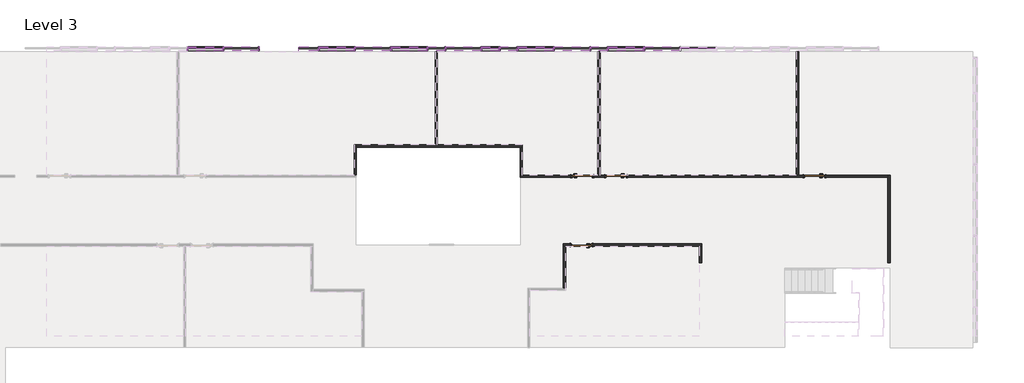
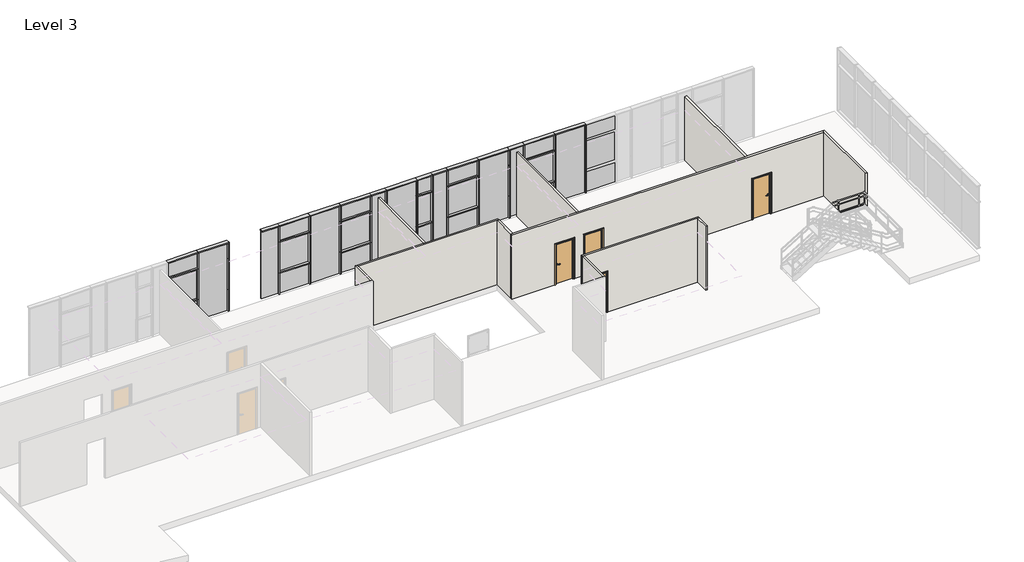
# One storey, part 3 of 7: 72 members, 30 plates, 11 walls, 4 doors.
"""IFC4 building model written with IfcOpenShell, lengths in millimetres."""

from ifc_helpers import new_model, si_unit, frame, origin, place, context, project, spatial, polyline, outline, extrude, faceted_brep, transform, mapped, element, save
from components import doors_intsgl_1_910x2110mm_004a08d5, doors_intsgl_1_910x2110mm_ba118736, rectangular_mullion_50x180mm_27940352, rectangular_mullion_50x180mm_f781141c, rectangular_mullion_50x180mm_fd91253e, rectangular_mullion_50x180mm_cfc9efda, rectangular_mullion_50x180mm_c30fec06, rectangular_mullion_50x180mm_55b63a96, rectangular_mullion_50x180mm_95299f7d, rectangular_mullion_50x180mm_7153291d, rectangular_mullion_50x180mm_44ee472d, rectangular_mullion_50x180mm_bfae1b57, rectangular_mullion_50x180mm_1c28dd9e, system_panel_black_panel_33968e5e, system_panel_black_panel_b553a8d2, system_panel_black_panel_68769a9a, system_panel_dark_grey_panel_97f951a3, system_panel_dark_grey_panel_4b19a003, system_panel_dark_grey_panel_97a7edae, system_panel_glazed_dd63f223, system_panel_glazed_4915e1a0, system_panel_white_panel_6a64f577, system_panel_white_panel_a9ca731a, system_panel_white_panel_dc489aa2, system_panel_white_panel_659cbcf8

model = new_model("IFC4")

# Units and contexts
model_context = context("Model", 3, world=origin())
ifc_project = project(units=[si_unit("LENGTHUNIT", "METRE", prefix="MILLI")], contexts=[model_context])

# Site, building, storey
site = spatial("IfcSite", under=ifc_project)
building = spatial("IfcBuilding", under=site)
storey = spatial("IfcBuildingStorey", under=building, Name="Level 3", Elevation=11000.0)

# Doors
placement = place(None, origin())
doors_intsgl_1_910x2110mm_shape = doors_intsgl_1_910x2110mm_004a08d5(model_context)
element("IfcDoor", 1, ObjectType="Doors_IntSgl_1 : 910x2110mm", at=placement, inside=storey, context=model_context, shape_type="MappedRepresentation", body=[
    mapped(doors_intsgl_1_910x2110mm_shape, transform((26878.2942367, 3837.3025486, 11000.0), x_axis=(1.0, 0.0, 0.0), y_axis=(0.0, 1.0, 0.0), z_axis=(0.0, 0.0, 1.0))),
])
element("IfcDoor", 2, ObjectType="Doors_IntSgl_1 : 910x2110mm", at=placement, inside=storey, context=model_context, shape_type="MappedRepresentation", body=[
    mapped(doors_intsgl_1_910x2110mm_shape, transform((26848.2942367, 987.4946591, 11000.0), x_axis=(-1.0, 0.0, 0.0), y_axis=(0.0, -1.0, 0.0), z_axis=(0.0, 0.0, 1.0))),
])
doors_intsgl_1_910x2110mm_2_shape = doors_intsgl_1_910x2110mm_ba118736(model_context)
element("IfcDoor", 3, ObjectType="Doors_IntSgl_1 : 910x2110mm", at=placement, inside=storey, context=model_context, shape_type="MappedRepresentation", body=[
    mapped(doors_intsgl_1_910x2110mm_2_shape, transform((28283.2942367, 3837.3025486, 11000.0), x_axis=(-1.0, 0.0, 0.0), y_axis=(0.0, -1.0, 0.0), z_axis=(0.0, 0.0, 1.0))),
])
element("IfcDoor", 4, ObjectType="Doors_IntSgl_1 : 910x2110mm", at=placement, inside=storey, context=model_context, shape_type="MappedRepresentation", body=[
    mapped(doors_intsgl_1_910x2110mm_2_shape, transform((36520.7942367, 3837.3025486, 11000.0), x_axis=(-1.0, 0.0, 0.0), y_axis=(0.0, -1.0, 0.0), z_axis=(0.0, 0.0, 1.0))),
])

# Members
rectangular_mullion_50x180mm_shape = rectangular_mullion_50x180mm_27940352(model_context)
element("IfcMember", 5, ObjectType="Rectangular Mullion : 50x180mm", at=placement, inside=storey, context=model_context, shape_type="MappedRepresentation", body=[
    mapped(rectangular_mullion_50x180mm_shape, transform((30943.2942367, 9132.4946591, 11000.0), x_axis=(1.0, 0.0, 0.0), y_axis=(0.0, -1.0, 0.0), z_axis=(0.0, 0.0, -1.0))),
])
element("IfcMember", 6, ObjectType="Rectangular Mullion : 50x180mm", at=placement, inside=storey, context=model_context, shape_type="MappedRepresentation", body=[
    mapped(rectangular_mullion_50x180mm_shape, transform((27943.2942367, 9132.4946591, 11000.0), x_axis=(1.0, 0.0, 0.0), y_axis=(0.0, -1.0, 0.0), z_axis=(0.0, 0.0, -1.0))),
])
element("IfcMember", 7, ObjectType="Rectangular Mullion : 50x180mm", at=placement, inside=storey, context=model_context, shape_type="MappedRepresentation", body=[
    mapped(rectangular_mullion_50x180mm_shape, transform((29443.2942367, 9132.4946591, 11000.0), x_axis=(1.0, 0.0, 0.0), y_axis=(0.0, -1.0, 0.0), z_axis=(0.0, 0.0, -1.0))),
])
element("IfcMember", 8, ObjectType="Rectangular Mullion : 50x180mm", at=placement, inside=storey, context=model_context, shape_type="MappedRepresentation", body=[
    mapped(rectangular_mullion_50x180mm_shape, transform((25693.2942367, 9132.4946591, 11000.0), x_axis=(1.0, 0.0, 0.0), y_axis=(0.0, -1.0, 0.0), z_axis=(0.0, 0.0, -1.0))),
])
element("IfcMember", 9, ObjectType="Rectangular Mullion : 50x180mm", at=placement, inside=storey, context=model_context, shape_type="MappedRepresentation", body=[
    mapped(rectangular_mullion_50x180mm_shape, transform((24193.2942367, 9132.4946591, 11000.0), x_axis=(1.0, 0.0, 0.0), y_axis=(0.0, -1.0, 0.0), z_axis=(0.0, 0.0, -1.0))),
])
element("IfcMember", 10, ObjectType="Rectangular Mullion : 50x180mm", at=placement, inside=storey, context=model_context, shape_type="MappedRepresentation", body=[
    mapped(rectangular_mullion_50x180mm_shape, transform((23443.2942367, 9132.4946591, 11000.0), x_axis=(1.0, 0.0, 0.0), y_axis=(0.0, -1.0, 0.0), z_axis=(0.0, 0.0, -1.0))),
])
element("IfcMember", 11, ObjectType="Rectangular Mullion : 50x180mm", at=placement, inside=storey, context=model_context, shape_type="MappedRepresentation", body=[
    mapped(rectangular_mullion_50x180mm_shape, transform((22693.2942367, 9132.4946591, 11000.0), x_axis=(1.0, 0.0, 0.0), y_axis=(0.0, -1.0, 0.0), z_axis=(0.0, 0.0, -1.0))),
])
element("IfcMember", 12, ObjectType="Rectangular Mullion : 50x180mm", at=placement, inside=storey, context=model_context, shape_type="MappedRepresentation", body=[
    mapped(rectangular_mullion_50x180mm_shape, transform((20443.2942367, 9132.4946591, 11000.0), x_axis=(1.0, 0.0, 0.0), y_axis=(0.0, -1.0, 0.0), z_axis=(0.0, 0.0, -1.0))),
])
element("IfcMember", 13, ObjectType="Rectangular Mullion : 50x180mm", at=placement, inside=storey, context=model_context, shape_type="MappedRepresentation", body=[
    mapped(rectangular_mullion_50x180mm_shape, transform((18943.2942367, 9132.4946591, 11000.0), x_axis=(1.0, 0.0, 0.0), y_axis=(0.0, -1.0, 0.0), z_axis=(0.0, 0.0, -1.0))),
])
element("IfcMember", 14, ObjectType="Rectangular Mullion : 50x180mm", at=placement, inside=storey, context=model_context, shape_type="MappedRepresentation", body=[
    mapped(rectangular_mullion_50x180mm_shape, transform((15943.2942367, 9132.4946591, 11000.0), x_axis=(1.0, 0.0, 0.0), y_axis=(0.0, -1.0, 0.0), z_axis=(0.0, 0.0, -1.0))),
])
element("IfcMember", 15, ObjectType="Rectangular Mullion : 50x180mm", at=placement, inside=storey, context=model_context, shape_type="MappedRepresentation", body=[
    mapped(rectangular_mullion_50x180mm_shape, transform((17443.2942367, 9132.4946591, 11000.0), x_axis=(1.0, 0.0, 0.0), y_axis=(0.0, -1.0, 0.0), z_axis=(0.0, 0.0, -1.0))),
])
element("IfcMember", 16, ObjectType="Rectangular Mullion : 50x180mm", at=placement, inside=storey, context=model_context, shape_type="MappedRepresentation", body=[
    mapped(rectangular_mullion_50x180mm_shape, transform((11980.7942367, 9132.4946591, 11000.0), x_axis=(1.0, 0.0, 0.0), y_axis=(0.0, -1.0, 0.0), z_axis=(0.0, 0.0, -1.0))),
])
element("IfcMember", 17, ObjectType="Rectangular Mullion : 50x180mm", at=placement, inside=storey, context=model_context, shape_type="MappedRepresentation", body=[
    mapped(rectangular_mullion_50x180mm_shape, transform((21193.2942367, 9132.4946591, 11000.0), x_axis=(1.0, 0.0, 0.0), y_axis=(0.0, -1.0, 0.0), z_axis=(0.0, 0.0, -1.0))),
])
rectangular_mullion_50x180mm_2_shape = rectangular_mullion_50x180mm_f781141c(model_context)
element("IfcMember", 18, ObjectType="Rectangular Mullion : 50x180mm", at=placement, inside=storey, context=model_context, shape_type="MappedRepresentation", body=[
    mapped(rectangular_mullion_50x180mm_2_shape, transform((27943.2942367, 9132.4946591, 12100.0), x_axis=(1.0, 0.0, 0.0), y_axis=(0.0, -1.0, 0.0), z_axis=(0.0, 0.0, -1.0))),
])
element("IfcMember", 19, ObjectType="Rectangular Mullion : 50x180mm", at=placement, inside=storey, context=model_context, shape_type="MappedRepresentation", body=[
    mapped(rectangular_mullion_50x180mm_2_shape, transform((29443.2942367, 9132.4946591, 12100.0), x_axis=(1.0, 0.0, 0.0), y_axis=(0.0, -1.0, 0.0), z_axis=(0.0, 0.0, -1.0))),
])
element("IfcMember", 20, ObjectType="Rectangular Mullion : 50x180mm", at=placement, inside=storey, context=model_context, shape_type="MappedRepresentation", body=[
    mapped(rectangular_mullion_50x180mm_2_shape, transform((30943.2942367, 9132.4946591, 12100.0), x_axis=(1.0, 0.0, 0.0), y_axis=(0.0, -1.0, 0.0), z_axis=(0.0, 0.0, -1.0))),
])
element("IfcMember", 21, ObjectType="Rectangular Mullion : 50x180mm", at=placement, inside=storey, context=model_context, shape_type="MappedRepresentation", body=[
    mapped(rectangular_mullion_50x180mm_2_shape, transform((15943.2942367, 9132.4946591, 12100.0), x_axis=(1.0, 0.0, 0.0), y_axis=(0.0, -1.0, 0.0), z_axis=(0.0, 0.0, -1.0))),
])
element("IfcMember", 22, ObjectType="Rectangular Mullion : 50x180mm", at=placement, inside=storey, context=model_context, shape_type="MappedRepresentation", body=[
    mapped(rectangular_mullion_50x180mm_2_shape, transform((17443.2942367, 9132.4946591, 12100.0), x_axis=(1.0, 0.0, 0.0), y_axis=(0.0, -1.0, 0.0), z_axis=(0.0, 0.0, -1.0))),
])
element("IfcMember", 23, ObjectType="Rectangular Mullion : 50x180mm", at=placement, inside=storey, context=model_context, shape_type="MappedRepresentation", body=[
    mapped(rectangular_mullion_50x180mm_2_shape, transform((18943.2942367, 9132.4946591, 12100.0), x_axis=(1.0, 0.0, 0.0), y_axis=(0.0, -1.0, 0.0), z_axis=(0.0, 0.0, -1.0))),
])
element("IfcMember", 24, ObjectType="Rectangular Mullion : 50x180mm", at=placement, inside=storey, context=model_context, shape_type="MappedRepresentation", body=[
    mapped(rectangular_mullion_50x180mm_2_shape, transform((20443.2942367, 9132.4946591, 12100.0), x_axis=(1.0, 0.0, 0.0), y_axis=(0.0, -1.0, 0.0), z_axis=(0.0, 0.0, -1.0))),
])
element("IfcMember", 25, ObjectType="Rectangular Mullion : 50x180mm", at=placement, inside=storey, context=model_context, shape_type="MappedRepresentation", body=[
    mapped(rectangular_mullion_50x180mm_2_shape, transform((22693.2942367, 9132.4946591, 12100.0), x_axis=(1.0, 0.0, 0.0), y_axis=(0.0, -1.0, 0.0), z_axis=(0.0, 0.0, -1.0))),
])
element("IfcMember", 26, ObjectType="Rectangular Mullion : 50x180mm", at=placement, inside=storey, context=model_context, shape_type="MappedRepresentation", body=[
    mapped(rectangular_mullion_50x180mm_2_shape, transform((23443.2942367, 9132.4946591, 12100.0), x_axis=(1.0, 0.0, 0.0), y_axis=(0.0, -1.0, 0.0), z_axis=(0.0, 0.0, -1.0))),
])
element("IfcMember", 27, ObjectType="Rectangular Mullion : 50x180mm", at=placement, inside=storey, context=model_context, shape_type="MappedRepresentation", body=[
    mapped(rectangular_mullion_50x180mm_2_shape, transform((24193.2942367, 9132.4946591, 12100.0), x_axis=(1.0, 0.0, 0.0), y_axis=(0.0, -1.0, 0.0), z_axis=(0.0, 0.0, -1.0))),
])
element("IfcMember", 28, ObjectType="Rectangular Mullion : 50x180mm", at=placement, inside=storey, context=model_context, shape_type="MappedRepresentation", body=[
    mapped(rectangular_mullion_50x180mm_2_shape, transform((25693.2942367, 9132.4946591, 12100.0), x_axis=(1.0, 0.0, 0.0), y_axis=(0.0, -1.0, 0.0), z_axis=(0.0, 0.0, -1.0))),
])
element("IfcMember", 29, ObjectType="Rectangular Mullion : 50x180mm", at=placement, inside=storey, context=model_context, shape_type="MappedRepresentation", body=[
    mapped(rectangular_mullion_50x180mm_2_shape, transform((11980.7942367, 9132.4946591, 12100.0), x_axis=(1.0, 0.0, 0.0), y_axis=(0.0, -1.0, 0.0), z_axis=(0.0, 0.0, -1.0))),
])
element("IfcMember", 30, ObjectType="Rectangular Mullion : 50x180mm", at=placement, inside=storey, context=model_context, shape_type="MappedRepresentation", body=[
    mapped(rectangular_mullion_50x180mm_2_shape, transform((21193.2942367, 9132.4946591, 12100.0), x_axis=(1.0, 0.0, 0.0), y_axis=(0.0, -1.0, 0.0), z_axis=(0.0, 0.0, -1.0))),
])
rectangular_mullion_50x180mm_3_shape = rectangular_mullion_50x180mm_fd91253e(model_context)
element("IfcMember", 31, ObjectType="Rectangular Mullion : 50x180mm", at=placement, inside=storey, context=model_context, shape_type="MappedRepresentation", body=[
    mapped(rectangular_mullion_50x180mm_3_shape, transform((29418.2942367, 9132.4946591, 12100.0), x_axis=(0.0, 0.0, 1.0), y_axis=(0.0, -1.0, 0.0), z_axis=(1.0, 0.0, 0.0))),
])
element("IfcMember", 32, ObjectType="Rectangular Mullion : 50x180mm", at=placement, inside=storey, context=model_context, shape_type="MappedRepresentation", body=[
    mapped(rectangular_mullion_50x180mm_3_shape, transform((29418.2942367, 9132.4946591, 13700.0), x_axis=(0.0, 0.0, 1.0), y_axis=(0.0, -1.0, 0.0), z_axis=(1.0, 0.0, 0.0))),
])
element("IfcMember", 33, ObjectType="Rectangular Mullion : 50x180mm", at=placement, inside=storey, context=model_context, shape_type="MappedRepresentation", body=[
    mapped(rectangular_mullion_50x180mm_3_shape, transform((25668.2942367, 9132.4946591, 12100.0), x_axis=(0.0, 0.0, 1.0), y_axis=(0.0, -1.0, 0.0), z_axis=(1.0, 0.0, 0.0))),
])
element("IfcMember", 34, ObjectType="Rectangular Mullion : 50x180mm", at=placement, inside=storey, context=model_context, shape_type="MappedRepresentation", body=[
    mapped(rectangular_mullion_50x180mm_3_shape, transform((25668.2942367, 9132.4946591, 13700.0), x_axis=(0.0, 0.0, 1.0), y_axis=(0.0, -1.0, 0.0), z_axis=(1.0, 0.0, 0.0))),
])
element("IfcMember", 35, ObjectType="Rectangular Mullion : 50x180mm", at=placement, inside=storey, context=model_context, shape_type="MappedRepresentation", body=[
    mapped(rectangular_mullion_50x180mm_3_shape, transform((17418.2942367, 9132.4946591, 12100.0), x_axis=(0.0, 0.0, 1.0), y_axis=(0.0, -1.0, 0.0), z_axis=(1.0, 0.0, 0.0))),
])
element("IfcMember", 36, ObjectType="Rectangular Mullion : 50x180mm", at=placement, inside=storey, context=model_context, shape_type="MappedRepresentation", body=[
    mapped(rectangular_mullion_50x180mm_3_shape, transform((20418.2942367, 9132.4946591, 12100.0), x_axis=(0.0, 0.0, 1.0), y_axis=(0.0, -1.0, 0.0), z_axis=(1.0, 0.0, 0.0))),
])
element("IfcMember", 37, ObjectType="Rectangular Mullion : 50x180mm", at=placement, inside=storey, context=model_context, shape_type="MappedRepresentation", body=[
    mapped(rectangular_mullion_50x180mm_3_shape, transform((17418.2942367, 9132.4946591, 13700.0), x_axis=(0.0, 0.0, 1.0), y_axis=(0.0, -1.0, 0.0), z_axis=(1.0, 0.0, 0.0))),
])
element("IfcMember", 38, ObjectType="Rectangular Mullion : 50x180mm", at=placement, inside=storey, context=model_context, shape_type="MappedRepresentation", body=[
    mapped(rectangular_mullion_50x180mm_3_shape, transform((20418.2942367, 9132.4946591, 13700.0), x_axis=(0.0, 0.0, 1.0), y_axis=(0.0, -1.0, 0.0), z_axis=(1.0, 0.0, 0.0))),
])
element("IfcMember", 39, ObjectType="Rectangular Mullion : 50x180mm", at=placement, inside=storey, context=model_context, shape_type="MappedRepresentation", body=[
    mapped(rectangular_mullion_50x180mm_3_shape, transform((11955.7942367, 9132.4946591, 12100.0), x_axis=(0.0, 0.0, 1.0), y_axis=(0.0, -1.0, 0.0), z_axis=(1.0, 0.0, 0.0))),
])
element("IfcMember", 40, ObjectType="Rectangular Mullion : 50x180mm", at=placement, inside=storey, context=model_context, shape_type="MappedRepresentation", body=[
    mapped(rectangular_mullion_50x180mm_3_shape, transform((11955.7942367, 9132.4946591, 13700.0), x_axis=(0.0, 0.0, 1.0), y_axis=(0.0, -1.0, 0.0), z_axis=(1.0, 0.0, 0.0))),
])
rectangular_mullion_50x180mm_4_shape = rectangular_mullion_50x180mm_cfc9efda(model_context)
element("IfcMember", 41, ObjectType="Rectangular Mullion : 50x180mm", at=placement, inside=storey, context=model_context, shape_type="MappedRepresentation", body=[
    mapped(rectangular_mullion_50x180mm_4_shape, transform((23418.2942367, 9132.4946591, 13700.0), x_axis=(0.0, 0.0, 1.0), y_axis=(0.0, -1.0, 0.0), z_axis=(1.0, 0.0, 0.0))),
])
element("IfcMember", 42, ObjectType="Rectangular Mullion : 50x180mm", at=placement, inside=storey, context=model_context, shape_type="MappedRepresentation", body=[
    mapped(rectangular_mullion_50x180mm_4_shape, transform((23418.2942367, 9132.4946591, 12100.0), x_axis=(0.0, 0.0, 1.0), y_axis=(0.0, -1.0, 0.0), z_axis=(1.0, 0.0, 0.0))),
])
rectangular_mullion_50x180mm_5_shape = rectangular_mullion_50x180mm_c30fec06(model_context)
element("IfcMember", 43, ObjectType="Rectangular Mullion : 50x180mm", at=placement, inside=storey, context=model_context, shape_type="MappedRepresentation", body=[
    mapped(rectangular_mullion_50x180mm_5_shape, transform((29443.2942367, 9132.4946591, 14550.0), x_axis=(0.0, 0.0, 1.0), y_axis=(0.0, -1.0, 0.0), z_axis=(1.0, 0.0, 0.0))),
])
element("IfcMember", 44, ObjectType="Rectangular Mullion : 50x180mm", at=placement, inside=storey, context=model_context, shape_type="MappedRepresentation", body=[
    mapped(rectangular_mullion_50x180mm_5_shape, transform((30943.2942367, 9132.4946591, 14550.0), x_axis=(0.0, 0.0, 1.0), y_axis=(0.0, -1.0, 0.0), z_axis=(1.0, 0.0, 0.0))),
])
element("IfcMember", 45, ObjectType="Rectangular Mullion : 50x180mm", at=placement, inside=storey, context=model_context, shape_type="MappedRepresentation", body=[
    mapped(rectangular_mullion_50x180mm_5_shape, transform((17443.2942367, 9132.4946591, 14550.0), x_axis=(0.0, 0.0, 1.0), y_axis=(0.0, -1.0, 0.0), z_axis=(1.0, 0.0, 0.0))),
])
element("IfcMember", 46, ObjectType="Rectangular Mullion : 50x180mm", at=placement, inside=storey, context=model_context, shape_type="MappedRepresentation", body=[
    mapped(rectangular_mullion_50x180mm_5_shape, transform((18943.2942367, 9132.4946591, 14550.0), x_axis=(0.0, 0.0, 1.0), y_axis=(0.0, -1.0, 0.0), z_axis=(1.0, 0.0, 0.0))),
])
element("IfcMember", 47, ObjectType="Rectangular Mullion : 50x180mm", at=placement, inside=storey, context=model_context, shape_type="MappedRepresentation", body=[
    mapped(rectangular_mullion_50x180mm_5_shape, transform((20443.2942367, 9132.4946591, 14550.0), x_axis=(0.0, 0.0, 1.0), y_axis=(0.0, -1.0, 0.0), z_axis=(1.0, 0.0, 0.0))),
])
element("IfcMember", 48, ObjectType="Rectangular Mullion : 50x180mm", at=placement, inside=storey, context=model_context, shape_type="MappedRepresentation", body=[
    mapped(rectangular_mullion_50x180mm_5_shape, transform((22693.2942367, 9132.4946591, 14550.0), x_axis=(0.0, 0.0, 1.0), y_axis=(0.0, -1.0, 0.0), z_axis=(1.0, 0.0, 0.0))),
])
element("IfcMember", 49, ObjectType="Rectangular Mullion : 50x180mm", at=placement, inside=storey, context=model_context, shape_type="MappedRepresentation", body=[
    mapped(rectangular_mullion_50x180mm_5_shape, transform((25693.2942367, 9132.4946591, 14550.0), x_axis=(0.0, 0.0, 1.0), y_axis=(0.0, -1.0, 0.0), z_axis=(1.0, 0.0, 0.0))),
])
element("IfcMember", 50, ObjectType="Rectangular Mullion : 50x180mm", at=placement, inside=storey, context=model_context, shape_type="MappedRepresentation", body=[
    mapped(rectangular_mullion_50x180mm_5_shape, transform((11980.7942367, 9132.4946591, 14550.0), x_axis=(0.0, 0.0, 1.0), y_axis=(0.0, -1.0, 0.0), z_axis=(1.0, 0.0, 0.0))),
])
rectangular_mullion_50x180mm_6_shape = rectangular_mullion_50x180mm_55b63a96(model_context)
element("IfcMember", 51, ObjectType="Rectangular Mullion : 50x180mm", at=placement, inside=storey, context=model_context, shape_type="MappedRepresentation", body=[
    mapped(rectangular_mullion_50x180mm_6_shape, transform((27943.2942367, 9132.4946591, 14550.0), x_axis=(0.0, 0.0, 1.0), y_axis=(0.0, -1.0, 0.0), z_axis=(1.0, 0.0, 0.0))),
])
element("IfcMember", 52, ObjectType="Rectangular Mullion : 50x180mm", at=placement, inside=storey, context=model_context, shape_type="MappedRepresentation", body=[
    mapped(rectangular_mullion_50x180mm_5_shape, transform((27193.2942367, 9132.4946591, 14550.0), x_axis=(0.0, 0.0, 1.0), y_axis=(0.0, -1.0, 0.0), z_axis=(1.0, 0.0, 0.0))),
])
element("IfcMember", 53, ObjectType="Rectangular Mullion : 50x180mm", at=placement, inside=storey, context=model_context, shape_type="MappedRepresentation", body=[
    mapped(rectangular_mullion_50x180mm_6_shape, transform((21193.2942367, 9132.4946591, 14550.0), x_axis=(0.0, 0.0, 1.0), y_axis=(0.0, -1.0, 0.0), z_axis=(1.0, 0.0, 0.0))),
])
element("IfcMember", 54, ObjectType="Rectangular Mullion : 50x180mm", at=placement, inside=storey, context=model_context, shape_type="MappedRepresentation", body=[
    mapped(rectangular_mullion_50x180mm_6_shape, transform((23443.2942367, 9132.4946591, 14550.0), x_axis=(0.0, 0.0, 1.0), y_axis=(0.0, -1.0, 0.0), z_axis=(1.0, 0.0, 0.0))),
])
element("IfcMember", 55, ObjectType="Rectangular Mullion : 50x180mm", at=placement, inside=storey, context=model_context, shape_type="MappedRepresentation", body=[
    mapped(rectangular_mullion_50x180mm_6_shape, transform((24193.2942367, 9132.4946591, 14550.0), x_axis=(0.0, 0.0, 1.0), y_axis=(0.0, -1.0, 0.0), z_axis=(1.0, 0.0, 0.0))),
])
element("IfcMember", 56, ObjectType="Rectangular Mullion : 50x180mm", at=placement, inside=storey, context=model_context, shape_type="MappedRepresentation", body=[
    mapped(rectangular_mullion_50x180mm_5_shape, transform((13480.7942367, 9132.4946591, 14550.0), x_axis=(0.0, 0.0, 1.0), y_axis=(0.0, -1.0, 0.0), z_axis=(1.0, 0.0, 0.0))),
])
rectangular_mullion_50x180mm_7_shape = rectangular_mullion_50x180mm_95299f7d(model_context)
element("IfcMember", 57, ObjectType="Rectangular Mullion : 50x180mm", at=placement, inside=storey, context=model_context, shape_type="MappedRepresentation", body=[
    mapped(rectangular_mullion_50x180mm_7_shape, transform((13480.7942367, 9132.4946591, 12100.0), x_axis=(1.0, 0.0, 0.0), y_axis=(0.0, -1.0, 0.0), z_axis=(0.0, 0.0, -1.0))),
])
rectangular_mullion_50x180mm_8_shape = rectangular_mullion_50x180mm_7153291d(model_context)
element("IfcMember", 58, ObjectType="Rectangular Mullion : 50x180mm", at=placement, inside=storey, context=model_context, shape_type="MappedRepresentation", body=[
    mapped(rectangular_mullion_50x180mm_8_shape, transform((13480.7942367, 9132.4946591, 11000.0), x_axis=(1.0, 0.0, 0.0), y_axis=(0.0, -1.0, 0.0), z_axis=(0.0, 0.0, -1.0))),
])
element("IfcMember", 59, ObjectType="Rectangular Mullion : 50x180mm", at=placement, inside=storey, context=model_context, shape_type="MappedRepresentation", body=[
    mapped(rectangular_mullion_50x180mm_8_shape, transform((27193.2942367, 9132.4946591, 12100.0), x_axis=(-1.0, 0.0, 0.0), y_axis=(0.0, -1.0, 0.0), z_axis=(0.0, 0.0, 1.0))),
])
element("IfcMember", 60, ObjectType="Rectangular Mullion : 50x180mm", at=placement, inside=storey, context=model_context, shape_type="MappedRepresentation", body=[
    mapped(rectangular_mullion_50x180mm_7_shape, transform((27193.2942367, 9132.4946591, 13700.0), x_axis=(-1.0, 0.0, 0.0), y_axis=(0.0, -1.0, 0.0), z_axis=(0.0, 0.0, 1.0))),
])
rectangular_mullion_50x180mm_9_shape = rectangular_mullion_50x180mm_44ee472d(model_context)
element("IfcMember", 61, ObjectType="Rectangular Mullion : 50x180mm", at=placement, inside=storey, context=model_context, shape_type="MappedRepresentation", body=[
    mapped(rectangular_mullion_50x180mm_9_shape, transform((15943.2942367, 9132.4946591, 14550.0), x_axis=(0.0, 0.0, 1.0), y_axis=(0.0, -1.0, 0.0), z_axis=(1.0, 0.0, 0.0))),
])
rectangular_mullion_50x180mm_10_shape = rectangular_mullion_50x180mm_bfae1b57(model_context)
element("IfcMember", 62, ObjectType="Rectangular Mullion : 50x180mm", at=placement, inside=storey, context=model_context, shape_type="MappedRepresentation", body=[
    mapped(rectangular_mullion_50x180mm_10_shape, transform((30943.2942367, 9132.4946591, 13700.0), x_axis=(1.0, 0.0, 0.0), y_axis=(0.0, -1.0, 0.0), z_axis=(0.0, 0.0, -1.0))),
])
element("IfcMember", 63, ObjectType="Rectangular Mullion : 50x180mm", at=placement, inside=storey, context=model_context, shape_type="MappedRepresentation", body=[
    mapped(rectangular_mullion_50x180mm_10_shape, transform((27943.2942367, 9132.4946591, 13700.0), x_axis=(1.0, 0.0, 0.0), y_axis=(0.0, -1.0, 0.0), z_axis=(0.0, 0.0, -1.0))),
])
element("IfcMember", 64, ObjectType="Rectangular Mullion : 50x180mm", at=placement, inside=storey, context=model_context, shape_type="MappedRepresentation", body=[
    mapped(rectangular_mullion_50x180mm_10_shape, transform((29443.2942367, 9132.4946591, 13700.0), x_axis=(1.0, 0.0, 0.0), y_axis=(0.0, -1.0, 0.0), z_axis=(0.0, 0.0, -1.0))),
])
element("IfcMember", 65, ObjectType="Rectangular Mullion : 50x180mm", at=placement, inside=storey, context=model_context, shape_type="MappedRepresentation", body=[
    mapped(rectangular_mullion_50x180mm_10_shape, transform((22693.2942367, 9132.4946591, 13700.0), x_axis=(1.0, 0.0, 0.0), y_axis=(0.0, -1.0, 0.0), z_axis=(0.0, 0.0, -1.0))),
])
element("IfcMember", 66, ObjectType="Rectangular Mullion : 50x180mm", at=placement, inside=storey, context=model_context, shape_type="MappedRepresentation", body=[
    mapped(rectangular_mullion_50x180mm_10_shape, transform((23443.2942367, 9132.4946591, 13700.0), x_axis=(1.0, 0.0, 0.0), y_axis=(0.0, -1.0, 0.0), z_axis=(0.0, 0.0, -1.0))),
])
element("IfcMember", 67, ObjectType="Rectangular Mullion : 50x180mm", at=placement, inside=storey, context=model_context, shape_type="MappedRepresentation", body=[
    mapped(rectangular_mullion_50x180mm_10_shape, transform((24193.2942367, 9132.4946591, 13700.0), x_axis=(1.0, 0.0, 0.0), y_axis=(0.0, -1.0, 0.0), z_axis=(0.0, 0.0, -1.0))),
])
element("IfcMember", 68, ObjectType="Rectangular Mullion : 50x180mm", at=placement, inside=storey, context=model_context, shape_type="MappedRepresentation", body=[
    mapped(rectangular_mullion_50x180mm_10_shape, transform((25693.2942367, 9132.4946591, 13700.0), x_axis=(1.0, 0.0, 0.0), y_axis=(0.0, -1.0, 0.0), z_axis=(0.0, 0.0, -1.0))),
])
element("IfcMember", 69, ObjectType="Rectangular Mullion : 50x180mm", at=placement, inside=storey, context=model_context, shape_type="MappedRepresentation", body=[
    mapped(rectangular_mullion_50x180mm_10_shape, transform((20443.2942367, 9132.4946591, 13700.0), x_axis=(1.0, 0.0, 0.0), y_axis=(0.0, -1.0, 0.0), z_axis=(0.0, 0.0, -1.0))),
])
element("IfcMember", 70, ObjectType="Rectangular Mullion : 50x180mm", at=placement, inside=storey, context=model_context, shape_type="MappedRepresentation", body=[
    mapped(rectangular_mullion_50x180mm_10_shape, transform((18943.2942367, 9132.4946591, 13700.0), x_axis=(1.0, 0.0, 0.0), y_axis=(0.0, -1.0, 0.0), z_axis=(0.0, 0.0, -1.0))),
])
element("IfcMember", 71, ObjectType="Rectangular Mullion : 50x180mm", at=placement, inside=storey, context=model_context, shape_type="MappedRepresentation", body=[
    mapped(rectangular_mullion_50x180mm_10_shape, transform((15943.2942367, 9132.4946591, 13700.0), x_axis=(1.0, 0.0, 0.0), y_axis=(0.0, -1.0, 0.0), z_axis=(0.0, 0.0, -1.0))),
])
element("IfcMember", 72, ObjectType="Rectangular Mullion : 50x180mm", at=placement, inside=storey, context=model_context, shape_type="MappedRepresentation", body=[
    mapped(rectangular_mullion_50x180mm_10_shape, transform((17443.2942367, 9132.4946591, 13700.0), x_axis=(1.0, 0.0, 0.0), y_axis=(0.0, -1.0, 0.0), z_axis=(0.0, 0.0, -1.0))),
])
element("IfcMember", 73, ObjectType="Rectangular Mullion : 50x180mm", at=placement, inside=storey, context=model_context, shape_type="MappedRepresentation", body=[
    mapped(rectangular_mullion_50x180mm_10_shape, transform((11980.7942367, 9132.4946591, 13700.0), x_axis=(1.0, 0.0, 0.0), y_axis=(0.0, -1.0, 0.0), z_axis=(0.0, 0.0, -1.0))),
])
element("IfcMember", 74, ObjectType="Rectangular Mullion : 50x180mm", at=placement, inside=storey, context=model_context, shape_type="MappedRepresentation", body=[
    mapped(rectangular_mullion_50x180mm_10_shape, transform((21193.2942367, 9132.4946591, 13700.0), x_axis=(1.0, 0.0, 0.0), y_axis=(0.0, -1.0, 0.0), z_axis=(0.0, 0.0, -1.0))),
])
rectangular_mullion_50x180mm_11_shape = rectangular_mullion_50x180mm_1c28dd9e(model_context)
element("IfcMember", 75, ObjectType="Rectangular Mullion : 50x180mm", at=placement, inside=storey, context=model_context, shape_type="MappedRepresentation", body=[
    mapped(rectangular_mullion_50x180mm_11_shape, transform((13480.7942367, 9132.4946591, 13700.0), x_axis=(1.0, 0.0, 0.0), y_axis=(0.0, -1.0, 0.0), z_axis=(0.0, 0.0, -1.0))),
])
element("IfcMember", 76, ObjectType="Rectangular Mullion : 50x180mm", at=placement, inside=storey, context=model_context, shape_type="MappedRepresentation", body=[
    mapped(rectangular_mullion_50x180mm_11_shape, transform((27193.2942367, 9132.4946591, 14500.0), x_axis=(-1.0, 0.0, 0.0), y_axis=(0.0, -1.0, 0.0), z_axis=(0.0, 0.0, 1.0))),
])

# Plates
system_panel_black_panel_shape = system_panel_black_panel_33968e5e(model_context)
element("IfcPlate", 77, ObjectType="System Panel : Black-Panel", at=placement, inside=storey, context=model_context, shape_type="MappedRepresentation", body=[
    mapped(system_panel_black_panel_shape, transform((27580.7942367, 9132.4946591, 11000.0), x_axis=(1.0, 0.0, 0.0), y_axis=(0.0, 1.0, 0.0), z_axis=(0.0, 0.0, 1.0))),
])
system_panel_black_panel_2_shape = system_panel_black_panel_b553a8d2(model_context)
element("IfcPlate", 78, ObjectType="System Panel : Black-Panel", at=placement, inside=storey, context=model_context, shape_type="MappedRepresentation", body=[
    mapped(system_panel_black_panel_2_shape, transform((23818.2942367, 9132.4946591, 11000.0), x_axis=(1.0, 0.0, 0.0), y_axis=(0.0, 1.0, 0.0), z_axis=(0.0, 0.0, 1.0))),
])
element("IfcPlate", 79, ObjectType="System Panel : Black-Panel", at=placement, inside=storey, context=model_context, shape_type="MappedRepresentation", body=[
    mapped(system_panel_black_panel_2_shape, transform((20818.2942367, 9132.4946591, 11000.0), x_axis=(1.0, 0.0, 0.0), y_axis=(0.0, 1.0, 0.0), z_axis=(0.0, 0.0, 1.0))),
])
system_panel_black_panel_3_shape = system_panel_black_panel_68769a9a(model_context)
element("IfcPlate", 80, ObjectType="System Panel : Black-Panel", at=placement, inside=storey, context=model_context, shape_type="MappedRepresentation", body=[
    mapped(system_panel_black_panel_3_shape, transform((15512.0442367, 9132.4946591, 11000.0), x_axis=(1.0, 0.0, 0.0), y_axis=(0.0, 1.0, 0.0), z_axis=(0.0, 0.0, 1.0))),
])
system_panel_dark_grey_panel_shape = system_panel_dark_grey_panel_97f951a3(model_context)
element("IfcPlate", 81, ObjectType="System Panel : Dark Grey-Panel", at=placement, inside=storey, context=model_context, shape_type="MappedRepresentation", body=[
    mapped(system_panel_dark_grey_panel_shape, transform((12718.2942367, 9132.4946591, 11000.0), x_axis=(1.0, 0.0, 0.0), y_axis=(0.0, 1.0, 0.0), z_axis=(0.0, 0.0, 1.0))),
])
system_panel_dark_grey_panel_2_shape = system_panel_dark_grey_panel_4b19a003(model_context)
element("IfcPlate", 82, ObjectType="System Panel : Dark Grey-Panel", at=placement, inside=storey, context=model_context, shape_type="MappedRepresentation", body=[
    mapped(system_panel_dark_grey_panel_2_shape, transform((30193.2942367, 9132.4946591, 11000.0), x_axis=(1.0, 0.0, 0.0), y_axis=(0.0, 1.0, 0.0), z_axis=(0.0, 0.0, 1.0))),
])
element("IfcPlate", 83, ObjectType="System Panel : Dark Grey-Panel", at=placement, inside=storey, context=model_context, shape_type="MappedRepresentation", body=[
    mapped(system_panel_dark_grey_panel_2_shape, transform((21943.2942367, 9132.4946591, 11000.0), x_axis=(1.0, 0.0, 0.0), y_axis=(0.0, 1.0, 0.0), z_axis=(0.0, 0.0, 1.0))),
])
element("IfcPlate", 84, ObjectType="System Panel : Dark Grey-Panel", at=placement, inside=storey, context=model_context, shape_type="MappedRepresentation", body=[
    mapped(system_panel_dark_grey_panel_2_shape, transform((18193.2942367, 9132.4946591, 11000.0), x_axis=(1.0, 0.0, 0.0), y_axis=(0.0, 1.0, 0.0), z_axis=(0.0, 0.0, 1.0))),
])
system_panel_dark_grey_panel_3_shape = system_panel_dark_grey_panel_97a7edae(model_context)
element("IfcPlate", 85, ObjectType="System Panel : Dark Grey-Panel", at=placement, inside=storey, context=model_context, shape_type="MappedRepresentation", body=[
    mapped(system_panel_dark_grey_panel_3_shape, transform((26455.7942367, 9132.4946591, 11000.0), x_axis=(1.0, 0.0, 0.0), y_axis=(0.0, 1.0, 0.0), z_axis=(0.0, 0.0, 1.0))),
])
system_panel_glazed_shape = system_panel_glazed_dd63f223(model_context)
element("IfcPlate", 86, ObjectType="System Panel : Glazed", at=placement, inside=storey, context=model_context, shape_type="MappedRepresentation", body=[
    mapped(system_panel_glazed_shape, transform((23068.2942367, 9132.4946591, 12125.0), x_axis=(1.0, 0.0, 0.0), y_axis=(0.0, 1.0, 0.0), z_axis=(0.0, 0.0, 1.0))),
])
system_panel_glazed_2_shape = system_panel_glazed_4915e1a0(model_context)
element("IfcPlate", 87, ObjectType="System Panel : Glazed", at=placement, inside=storey, context=model_context, shape_type="MappedRepresentation", body=[
    mapped(system_panel_glazed_2_shape, transform((31693.2942367, 9132.4946591, 12125.0), x_axis=(1.0, 0.0, 0.0), y_axis=(0.0, 1.0, 0.0), z_axis=(0.0, 0.0, 1.0))),
])
element("IfcPlate", 88, ObjectType="System Panel : Glazed", at=placement, inside=storey, context=model_context, shape_type="MappedRepresentation", body=[
    mapped(system_panel_glazed_2_shape, transform((28693.2942367, 9132.4946591, 12125.0), x_axis=(1.0, 0.0, 0.0), y_axis=(0.0, 1.0, 0.0), z_axis=(0.0, 0.0, 1.0))),
])
element("IfcPlate", 89, ObjectType="System Panel : Glazed", at=placement, inside=storey, context=model_context, shape_type="MappedRepresentation", body=[
    mapped(system_panel_glazed_2_shape, transform((24943.2942367, 9132.4946591, 12125.0), x_axis=(1.0, 0.0, 0.0), y_axis=(0.0, 1.0, 0.0), z_axis=(0.0, 0.0, 1.0))),
])
element("IfcPlate", 90, ObjectType="System Panel : Glazed", at=placement, inside=storey, context=model_context, shape_type="MappedRepresentation", body=[
    mapped(system_panel_glazed_2_shape, transform((19693.2942367, 9132.4946591, 12125.0), x_axis=(1.0, 0.0, 0.0), y_axis=(0.0, 1.0, 0.0), z_axis=(0.0, 0.0, 1.0))),
])
element("IfcPlate", 91, ObjectType="System Panel : Glazed", at=placement, inside=storey, context=model_context, shape_type="MappedRepresentation", body=[
    mapped(system_panel_glazed_2_shape, transform((16693.2942367, 9132.4946591, 12125.0), x_axis=(1.0, 0.0, 0.0), y_axis=(0.0, 1.0, 0.0), z_axis=(0.0, 0.0, 1.0))),
])
element("IfcPlate", 92, ObjectType="System Panel : Glazed", at=placement, inside=storey, context=model_context, shape_type="MappedRepresentation", body=[
    mapped(system_panel_glazed_2_shape, transform((11230.7942367, 9132.4946591, 12125.0), x_axis=(1.0, 0.0, 0.0), y_axis=(0.0, 1.0, 0.0), z_axis=(0.0, 0.0, 1.0))),
])
system_panel_white_panel_shape = system_panel_white_panel_6a64f577(model_context)
element("IfcPlate", 93, ObjectType="System Panel : White-Panel", at=placement, inside=storey, context=model_context, shape_type="MappedRepresentation", body=[
    mapped(system_panel_white_panel_shape, transform((31693.2942367, 9132.4946591, 11000.0), x_axis=(1.0, 0.0, 0.0), y_axis=(0.0, 1.0, 0.0), z_axis=(0.0, 0.0, 1.0))),
])
element("IfcPlate", 94, ObjectType="System Panel : White-Panel", at=placement, inside=storey, context=model_context, shape_type="MappedRepresentation", body=[
    mapped(system_panel_white_panel_shape, transform((28693.2942367, 9132.4946591, 11000.0), x_axis=(1.0, 0.0, 0.0), y_axis=(0.0, 1.0, 0.0), z_axis=(0.0, 0.0, 1.0))),
])
element("IfcPlate", 95, ObjectType="System Panel : White-Panel", at=placement, inside=storey, context=model_context, shape_type="MappedRepresentation", body=[
    mapped(system_panel_white_panel_shape, transform((24943.2942367, 9132.4946591, 11000.0), x_axis=(1.0, 0.0, 0.0), y_axis=(0.0, 1.0, 0.0), z_axis=(0.0, 0.0, 1.0))),
])
element("IfcPlate", 96, ObjectType="System Panel : White-Panel", at=placement, inside=storey, context=model_context, shape_type="MappedRepresentation", body=[
    mapped(system_panel_white_panel_shape, transform((19693.2942367, 9132.4946591, 11000.0), x_axis=(1.0, 0.0, 0.0), y_axis=(0.0, 1.0, 0.0), z_axis=(0.0, 0.0, 1.0))),
])
element("IfcPlate", 97, ObjectType="System Panel : White-Panel", at=placement, inside=storey, context=model_context, shape_type="MappedRepresentation", body=[
    mapped(system_panel_white_panel_shape, transform((16693.2942367, 9132.4946591, 11000.0), x_axis=(1.0, 0.0, 0.0), y_axis=(0.0, 1.0, 0.0), z_axis=(0.0, 0.0, 1.0))),
])
element("IfcPlate", 98, ObjectType="System Panel : White-Panel", at=placement, inside=storey, context=model_context, shape_type="MappedRepresentation", body=[
    mapped(system_panel_white_panel_shape, transform((11230.7942367, 9132.4946591, 11000.0), x_axis=(1.0, 0.0, 0.0), y_axis=(0.0, 1.0, 0.0), z_axis=(0.0, 0.0, 1.0))),
])
system_panel_white_panel_2_shape = system_panel_white_panel_a9ca731a(model_context)
element("IfcPlate", 99, ObjectType="System Panel : White-Panel", at=placement, inside=storey, context=model_context, shape_type="MappedRepresentation", body=[
    mapped(system_panel_white_panel_2_shape, transform((23068.2942367, 9132.4946591, 11000.0), x_axis=(1.0, 0.0, 0.0), y_axis=(0.0, 1.0, 0.0), z_axis=(0.0, 0.0, 1.0))),
])
system_panel_white_panel_3_shape = system_panel_white_panel_dc489aa2(model_context)
element("IfcPlate", 100, ObjectType="System Panel : White-Panel", at=placement, inside=storey, context=model_context, shape_type="MappedRepresentation", body=[
    mapped(system_panel_white_panel_3_shape, transform((23068.2942367, 9132.4946591, 13725.0), x_axis=(1.0, 0.0, 0.0), y_axis=(0.0, 1.0, 0.0), z_axis=(0.0, 0.0, 1.0))),
])
system_panel_white_panel_4_shape = system_panel_white_panel_659cbcf8(model_context)
element("IfcPlate", 101, ObjectType="System Panel : White-Panel", at=placement, inside=storey, context=model_context, shape_type="MappedRepresentation", body=[
    mapped(system_panel_white_panel_4_shape, transform((31693.2942367, 9132.4946591, 13725.0), x_axis=(1.0, 0.0, 0.0), y_axis=(0.0, 1.0, 0.0), z_axis=(0.0, 0.0, 1.0))),
])
element("IfcPlate", 102, ObjectType="System Panel : White-Panel", at=placement, inside=storey, context=model_context, shape_type="MappedRepresentation", body=[
    mapped(system_panel_white_panel_4_shape, transform((28693.2942367, 9132.4946591, 13725.0), x_axis=(1.0, 0.0, 0.0), y_axis=(0.0, 1.0, 0.0), z_axis=(0.0, 0.0, 1.0))),
])
element("IfcPlate", 103, ObjectType="System Panel : White-Panel", at=placement, inside=storey, context=model_context, shape_type="MappedRepresentation", body=[
    mapped(system_panel_white_panel_4_shape, transform((24943.2942367, 9132.4946591, 13725.0), x_axis=(1.0, 0.0, 0.0), y_axis=(0.0, 1.0, 0.0), z_axis=(0.0, 0.0, 1.0))),
])
element("IfcPlate", 104, ObjectType="System Panel : White-Panel", at=placement, inside=storey, context=model_context, shape_type="MappedRepresentation", body=[
    mapped(system_panel_white_panel_4_shape, transform((19693.2942367, 9132.4946591, 13725.0), x_axis=(1.0, 0.0, 0.0), y_axis=(0.0, 1.0, 0.0), z_axis=(0.0, 0.0, 1.0))),
])
element("IfcPlate", 105, ObjectType="System Panel : White-Panel", at=placement, inside=storey, context=model_context, shape_type="MappedRepresentation", body=[
    mapped(system_panel_white_panel_4_shape, transform((16693.2942367, 9132.4946591, 13725.0), x_axis=(1.0, 0.0, 0.0), y_axis=(0.0, 1.0, 0.0), z_axis=(0.0, 0.0, 1.0))),
])
element("IfcPlate", 106, ObjectType="System Panel : White-Panel", at=placement, inside=storey, context=model_context, shape_type="MappedRepresentation", body=[
    mapped(system_panel_white_panel_4_shape, transform((11230.7942367, 9132.4946591, 13725.0), x_axis=(1.0, 0.0, 0.0), y_axis=(0.0, 1.0, 0.0), z_axis=(0.0, 0.0, 1.0))),
])

# Walls
element("IfcWall", 107, ObjectType="Wall-Partn_12P-70MStd-12P", at=placement, inside=storey, context=model_context, shape_type="Brep", body=[
    faceted_brep([(24298.2942367, 3884.8025486, 14315.0), (24393.2942367, 3884.8025486, 14315.0), (27533.2942367, 3884.8025486, 14315.0), (27628.2942367, 3884.8025486, 14315.0), (35770.7942367, 3884.8025486, 14315.0), (35865.7942367, 3884.8025486, 14315.0), (39560.7942367, 3884.8025486, 14315.0), (39560.7942367, 3884.8025486, 11000.0), (36975.7942367, 3884.8025486, 11000.0), (36975.7942367, 3884.8025486, 13110.0), (36065.7942367, 3884.8025486, 13110.0), (36065.7942367, 3884.8025486, 11000.0), (35865.7942367, 3884.8025486, 11000.0), (35770.7942367, 3884.8025486, 11000.0), (28738.2942367, 3884.8025486, 11000.0), (28738.2942367, 3884.8025486, 13110.0), (27828.2942367, 3884.8025486, 13110.0), (27828.2942367, 3884.8025486, 11000.0), (27628.2942367, 3884.8025486, 11000.0), (27533.2942367, 3884.8025486, 11000.0), (27333.2942367, 3884.8025486, 11000.0), (27333.2942367, 3884.8025486, 13110.0), (26423.2942367, 3884.8025486, 13110.0), (26423.2942367, 3884.8025486, 11000.0), (24393.2942367, 3884.8025486, 11000.0), (24298.2942367, 3884.8025486, 11000.0), (39560.7942367, 3789.8025486, 14315.0), (24298.2942367, 3789.8025486, 14315.0), (24298.2942367, 3789.8025486, 11000.0), (26423.2942367, 3789.8025486, 11000.0), (26423.2942367, 3789.8025486, 13110.0), (27333.2942367, 3789.8025486, 13110.0), (27333.2942367, 3789.8025486, 11000.0), (27828.2942367, 3789.8025486, 11000.0), (27828.2942367, 3789.8025486, 13110.0), (28738.2942367, 3789.8025486, 13110.0), (28738.2942367, 3789.8025486, 11000.0), (36065.7942367, 3789.8025486, 11000.0), (36065.7942367, 3789.8025486, 13110.0), (36975.7942367, 3789.8025486, 13110.0), (36975.7942367, 3789.8025486, 11000.0), (39560.7942367, 3789.8025486, 11000.0)], [[[0, 1, 2, 3, 4, 5, 6, 7, 8, 9, 10, 11, 12, 13, 14, 15, 16, 17, 18, 19, 20, 21, 22, 23, 24, 25]], [[26, 27, 28, 29, 30, 31, 32, 33, 34, 35, 36, 37, 38, 39, 40, 41]], [[28, 25, 24, 23, 29]], [[32, 20, 19, 18, 17, 33]], [[36, 14, 13, 12, 11, 37]], [[7, 41, 40, 8]], [[6, 5, 4, 3, 2, 1, 0, 27, 26]], [[0, 25, 28, 27]], [[31, 21, 20, 32]], [[21, 31, 30, 22]], [[22, 30, 29, 23]], [[16, 34, 33, 17]], [[34, 16, 15, 35]], [[35, 15, 14, 36]], [[10, 38, 37, 11]], [[38, 10, 9, 39]], [[39, 9, 8, 40]], [[7, 6, 26, 41]]]),
])
element("IfcWall", 108, ObjectType="Wall-Partn_12P-70MStd-12P", at=placement, inside=storey, context=model_context, shape_type="SweptSolid", body=[
    extrude(outline(polyline([(20865.7942367, 9007.4946591), (20865.7942367, 5143.5025486), (20770.7942367, 5143.5025486), (20770.7942367, 9007.4946591), (20865.7942367, 9007.4946591)])), frame((0.0, 0.0, 11000.0), z_axis=(0.0, 0.0, 1.0), x_axis=(1.0, 0.0, 0.0)), (0.0, 0.0, 1.0), 3315.0),
])
element("IfcWall", 109, ObjectType="Wall-Partn_12P-70MStd-12P", at=placement, inside=storey, context=model_context, shape_type="SweptSolid", body=[
    extrude(outline(polyline([(35865.7942367, 9007.4946591), (35865.7942367, 3884.8025486), (35770.7942367, 3884.8025486), (35770.7942367, 9007.4946591), (35865.7942367, 9007.4946591)])), frame((0.0, 0.0, 11000.0), z_axis=(0.0, 0.0, 1.0), x_axis=(1.0, 0.0, 0.0)), (0.0, 0.0, 1.0), 3315.0),
])
element("IfcWall", 110, ObjectType="Wall-Partn_12P-70MStd-12P", at=placement, inside=storey, context=model_context, shape_type="SweptSolid", body=[
    extrude(outline(polyline([(27628.2942367, 9007.4946591), (27628.2942367, 3884.8025486), (27533.2942367, 3884.8025486), (27533.2942367, 9007.4946591), (27628.2942367, 9007.4946591)])), frame((0.0, 0.0, 11000.0), z_axis=(0.0, 0.0, 1.0), x_axis=(1.0, 0.0, 0.0)), (0.0, 0.0, 1.0), 3315.0),
])
element("IfcWall", 111, ObjectType="Wall-Partn_12P-70MStd-12P", at=placement, inside=storey, context=model_context, shape_type="Brep", body=[
    faceted_brep([(17505.7942367, 3884.8025486, 11000.0), (17505.7942367, 5048.5025486, 11000.0), (17505.7942367, 5143.5025486, 11000.0), (17505.7942367, 5143.5025486, 14315.0), (17505.7942367, 5048.5025486, 14315.0), (17505.7942367, 3884.8025486, 14315.0), (17410.7942367, 3884.8025486, 11000.0), (17410.7942367, 3884.8025486, 14315.0), (17410.7942367, 5143.5025486, 14315.0), (17410.7942367, 5143.5025486, 11000.0)], [[[0, 1, 2, 3, 4, 5]], [[6, 7, 8, 9]], [[2, 1, 0, 6, 9]], [[5, 4, 3, 8, 7]], [[0, 5, 7, 6]], [[3, 2, 9, 8]]]),
])
element("IfcWall", 112, ObjectType="Wall-Partn_12P-70MStd-12P", at=placement, inside=storey, context=model_context, shape_type="Brep", body=[
    faceted_brep([(17505.7942367, 5048.5025486, 11000.0), (24298.2942367, 5048.5025486, 11000.0), (24393.2942367, 5048.5025486, 11000.0), (24393.2942367, 5048.5025486, 14315.0), (24298.2942367, 5048.5025486, 14315.0), (17505.7942367, 5048.5025486, 14315.0), (17505.7942367, 5143.5025486, 11000.0), (17505.7942367, 5143.5025486, 14315.0), (20770.7942367, 5143.5025486, 14315.0), (20865.7942367, 5143.5025486, 14315.0), (24393.2942367, 5143.5025486, 14315.0), (24393.2942367, 5143.5025486, 11000.0), (20865.7942367, 5143.5025486, 11000.0), (20770.7942367, 5143.5025486, 11000.0)], [[[0, 1, 2, 3, 4, 5]], [[6, 7, 8, 9, 10, 11, 12, 13]], [[2, 1, 0, 6, 13, 12, 11]], [[5, 4, 3, 10, 9, 8, 7]], [[0, 5, 7, 6]], [[3, 2, 11, 10]]]),
])
element("IfcWall", 113, ObjectType="Wall-Partn_12P-70MStd-12P", at=placement, inside=storey, context=model_context, shape_type="SweptSolid", body=[
    extrude(outline(polyline([(24298.2942367, 3884.8025486), (24298.2942367, 5048.5025486), (24393.2942367, 5048.5025486), (24393.2942367, 3884.8025486), (24298.2942367, 3884.8025486)])), frame((0.0, 0.0, 11000.0), z_axis=(0.0, 0.0, 1.0), x_axis=(1.0, 0.0, 0.0)), (0.0, 0.0, 1.0), 3315.0),
])
element("IfcWall", 114, ObjectType="Wall-Partn_12P-70MStd-12P", at=placement, inside=storey, context=model_context, shape_type="Brep", body=[
    faceted_brep([(31831.4942371, 939.9946591, 14315.0), (31736.4942371, 939.9946591, 14315.0), (26193.2942367, 939.9946591, 14315.0), (26098.2942367, 939.9946591, 14315.0), (26098.2942367, 939.9946591, 11000.0), (26193.2942367, 939.9946591, 11000.0), (26393.2942367, 939.9946591, 11000.0), (26393.2942367, 939.9946591, 13110.0), (27303.2942367, 939.9946591, 13110.0), (27303.2942367, 939.9946591, 11000.0), (31736.4942371, 939.9946591, 11000.0), (31831.4942371, 939.9946591, 11000.0), (26098.2942367, 1034.9946591, 14315.0), (31831.4942371, 1034.9946591, 14315.0), (31831.4942371, 1034.9946591, 11000.0), (27303.2942367, 1034.9946591, 11000.0), (27303.2942367, 1034.9946591, 13110.0), (26393.2942367, 1034.9946591, 13110.0), (26393.2942367, 1034.9946591, 11000.0), (26098.2942367, 1034.9946591, 11000.0)], [[[0, 1, 2, 3, 4, 5, 6, 7, 8, 9, 10, 11]], [[12, 13, 14, 15, 16, 17, 18, 19]], [[14, 11, 10, 9, 15]], [[4, 19, 18, 6, 5]], [[3, 2, 1, 0, 13, 12]], [[0, 11, 14, 13]], [[4, 3, 12, 19]], [[17, 7, 6, 18]], [[7, 17, 16, 8]], [[8, 16, 15, 9]]]),
])
element("IfcWall", 115, ObjectType="Wall-Partn_12P-70MStd-12P", at=placement, inside=storey, context=model_context, shape_type="SweptSolid", body=[
    extrude(outline(polyline([(31736.4942371, 256.8025492), (31736.4942371, 939.9946591), (31831.4942371, 939.9946591), (31831.4942371, 256.8025492), (31736.4942371, 256.8025492)])), frame((0.0, 0.0, 11000.0), z_axis=(0.0, 0.0, 1.0), x_axis=(1.0, 0.0, 0.0)), (0.0, 0.0, 1.0), 3315.0),
])
element("IfcWall", 116, ObjectType="Wall-Partn_12P-70MStd-12P", at=placement, inside=storey, context=model_context, shape_type="SweptSolid", body=[
    extrude(outline(polyline([(26193.2942367, 939.9946591), (26193.2942367, -800.6472731), (26098.2942367, -800.6472731), (26098.2942367, 939.9946591), (26193.2942367, 939.9946591)])), frame((0.0, 0.0, 11000.0), z_axis=(0.0, 0.0, 1.0), x_axis=(1.0, 0.0, 0.0)), (0.0, 0.0, 1.0), 3315.0),
])
element("IfcWall", 117, ObjectType="Wall-Partn_12P-70MStd-12P", at=placement, inside=storey, context=model_context, shape_type="Brep", body=[
    faceted_brep([(39560.7942367, 3884.8025486, 11000.0), (39560.7942367, 3789.8025486, 11000.0), (39560.7942367, 256.8025492, 11000.0), (39560.7942367, 256.8025492, 14315.0), (39560.7942367, 3789.8025486, 14315.0), (39560.7942367, 3884.8025486, 14315.0), (39655.7942367, 3884.8025486, 11000.0), (39655.7942367, 3884.8025486, 14315.0), (39655.7942367, 256.8025492, 14315.0), (39655.7942367, 256.8025492, 11000.0)], [[[0, 1, 2, 3, 4, 5]], [[6, 7, 8, 9]], [[2, 1, 0, 6, 9]], [[5, 4, 3, 8, 7]], [[3, 2, 9, 8]], [[0, 5, 7, 6]]]),
])

save(model, "model.ifc")
